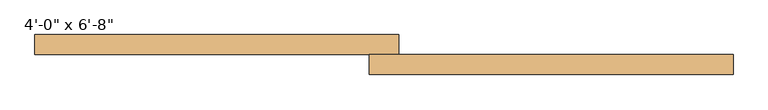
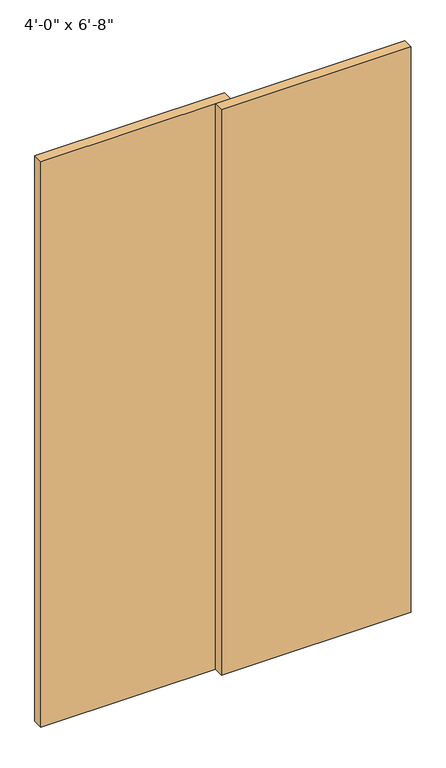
"""IFC4 building model written with IfcOpenShell, lengths in millimetres: door geometry."""

from ifc_helpers import new_model, si_unit, origin, origin_with_axes, place, context, project, spatial, polyline, outline, extrude, source, transform, mapped, element, save


def door_6404c185(model_context):
    return source(origin(), model_context, "Body", "SweptSolid", [
        extrude(outline(polyline([(609.6, 18.975), (609.6, -16.025), (-25.4, -16.025), (-25.4, 18.975), (609.6, 18.975)])), origin_with_axes(), (0.0, 0.0, 1.0), 2000.0),
        extrude(outline(polyline([(25.4, 53.975), (25.4, 18.975), (-609.6, 18.975), (-609.6, 53.975), (25.4, 53.975)])), origin_with_axes(), (0.0, 0.0, 1.0), 2000.0),
    ])


if __name__ == "__main__":
    model = new_model("IFC4")
    model_context = context("Model", 3, world=origin())
    ifc_project = project(units=[si_unit("LENGTHUNIT", "METRE", prefix="MILLI")], contexts=[model_context])
    site = spatial("IfcSite", under=ifc_project)
    building = spatial("IfcBuilding", under=site)
    placement = place(None, origin())
    door_shape = door_6404c185(model_context)
    element("IfcDoor", 1, ObjectType="Planitar - Double Sliding Door_Flush Panel : 4'-0\" x 6'-8\"", at=placement, inside=building, context=model_context, shape_type="MappedRepresentation", body=[
        mapped(door_shape, transform((0.0, 0.0, 0.0), x_axis=(1.0, 0.0, 0.0), y_axis=(0.0, 1.0, 0.0), z_axis=(0.0, 0.0, 1.0))),
    ])
    save(model, "model.ifc")
